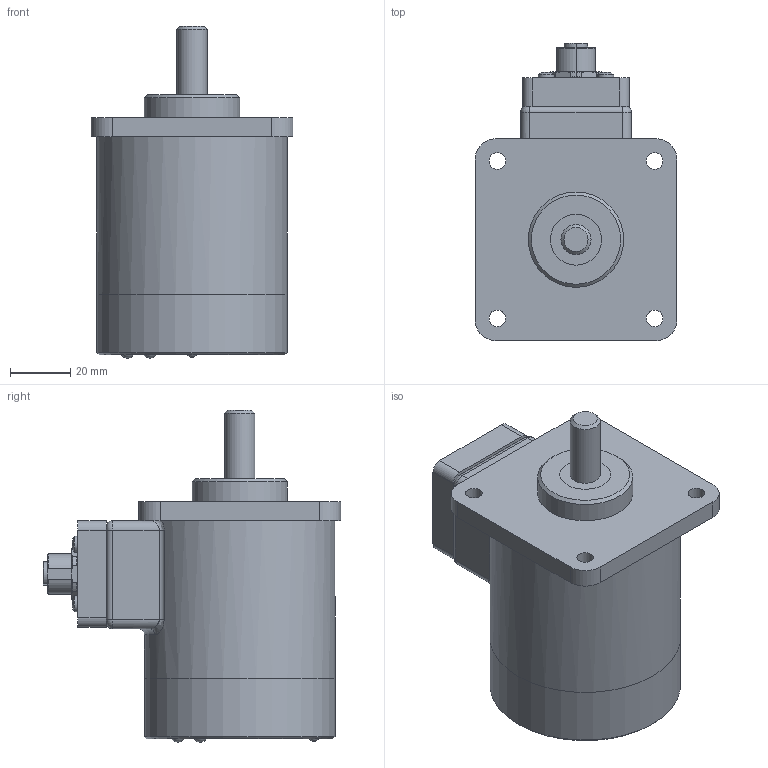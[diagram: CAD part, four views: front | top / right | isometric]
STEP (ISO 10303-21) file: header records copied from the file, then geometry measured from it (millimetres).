
FILE_DESCRIPTION(/* description */ ('Alibre Inc.'),/* implementation_level */ '2;1');
FILE_NAME(/* name */ 'export0',/* time_stamp */ '2010-05-25T09:11:52-04:00',/* author */ (''),/* organization */ (''),/* preprocessor_version */ 'ST-DEVELOPER v10',/* originating_system */ 'Alibre',/* authorisation */ '');
FILE_SCHEMA (('CONFIG_CONTROL_DESIGN'));
Length unit declared in the file: centimetre
Products named in the file (14): ID_1; ID_2; ID_3; ID_4; ID_5; ID_6; ID_7; ID_8; ID_9; ID_10; ID_11
Bounding box: 67.31 x 99.13 x 110.63 mm (x, y, z)
Volume: 296933.3 mm3; surface area: 54472.1 mm2
Topology: 15 solids, 15 shells, 334 faces, 742 edges, 479 vertices
Faces by surface type: plane 110, cylinder 104, bspline 72, cone 36, torus 8, sphere 4
Full cylindrical faces by diameter (mm): 2.87 x4, 2.92 x2, 3 x21, 3.96 x4, 5.44 x4, 5.537 x4, 10 x3, 11.5 x2, 17 x2, 24 x1, 26 x2, 31.75 x1, 58.72 x2, 63.5 x2
Entity records: 9287 total; most frequent: CARTESIAN_POINT 2358, DIRECTION 1100, ORIENTED_EDGE 1016, AXIS2_PLACEMENT_3D 510, EDGE_CURVE 508, EDGE_LOOP 375, FACE_BOUND 375, VERTEX_POINT 357
